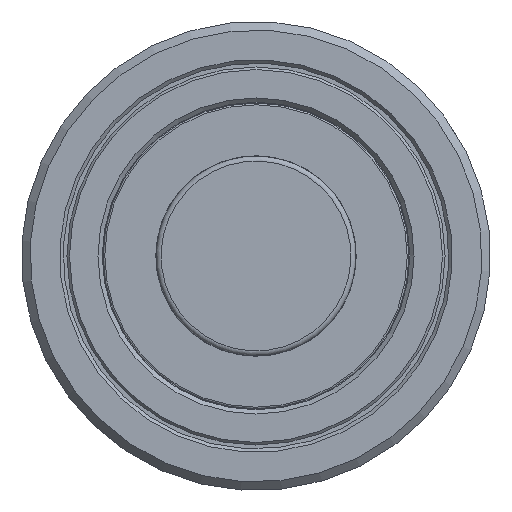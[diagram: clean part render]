
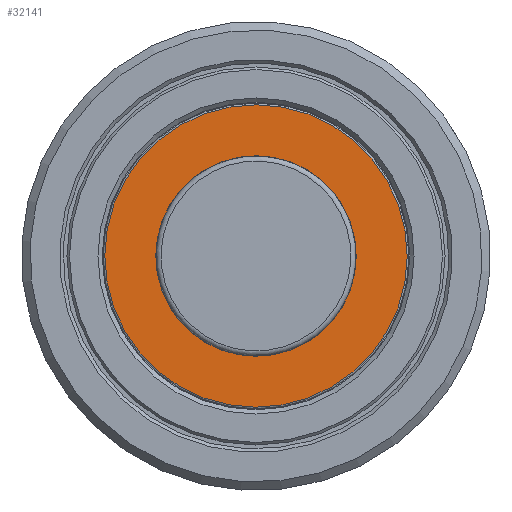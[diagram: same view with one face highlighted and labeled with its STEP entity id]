
A CAD part, left-side view. The second image highlights one B-rep face of the part: STEP entity #32141.
In plain terms, the highlighted planar face has unit normal (-1, 0, 0).
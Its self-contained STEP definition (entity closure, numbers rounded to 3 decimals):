
#1268=FACE_BOUND('',#4672,.T.);
#1634=PLANE('',#33587);
#2927=FACE_OUTER_BOUND('',#4671,.T.);
#4671=EDGE_LOOP('',(#26446));
#4672=EDGE_LOOP('',(#26447));
#7867=CIRCLE('',#33585,17.8);
#7869=CIRCLE('',#33588,11.8);
#13986=VERTEX_POINT('',#62129);
#13987=VERTEX_POINT('',#62134);
#18290=EDGE_CURVE('',#13986,#13986,#7867,.T.);
#18292=EDGE_CURVE('',#13987,#13987,#7869,.T.);
#26446=ORIENTED_EDGE('',*,*,#18290,.F.);
#26447=ORIENTED_EDGE('',*,*,#18292,.T.);
#32141=ADVANCED_FACE('',(#2927,#1268),#1634,.T.);
#33585=AXIS2_PLACEMENT_3D('',#62131,#37111,#37112);
#33587=AXIS2_PLACEMENT_3D('',#62133,#37115,#37116);
#33588=AXIS2_PLACEMENT_3D('',#62135,#37117,#37118);
#37111=DIRECTION('center_axis',(1.,0.,0.));
#37112=DIRECTION('ref_axis',(0.,0.641,0.767));
#37115=DIRECTION('center_axis',(-1.,0.,0.));
#37116=DIRECTION('ref_axis',(0.,-0.767,0.641));
#37117=DIRECTION('center_axis',(1.,0.,0.));
#37118=DIRECTION('ref_axis',(0.,0.641,0.767));
#62129=CARTESIAN_POINT('',(-35.3,-13.656,11.417));
#62131=CARTESIAN_POINT('Origin',(-35.3,0.,0.));
#62133=CARTESIAN_POINT('Origin',(-35.3,-11.546,-13.809));
#62134=CARTESIAN_POINT('',(-35.3,7.569,9.053));
#62135=CARTESIAN_POINT('Origin',(-35.3,0.,0.));
